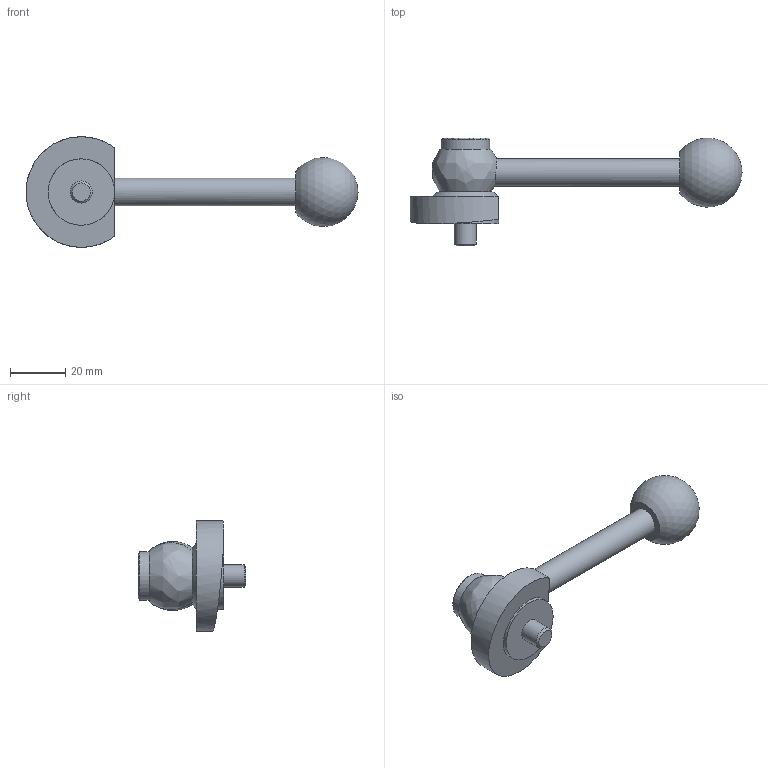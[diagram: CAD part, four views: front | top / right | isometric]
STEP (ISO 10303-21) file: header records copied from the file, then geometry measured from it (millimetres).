
FILE_DESCRIPTION( ( 'STEP AP203' ), '1' );
FILE_NAME( 'C:/Temp/Ganter_Step_05_03_2020/data/2_3/gn_918_2/Clamping bolt GN 918.2-40-GV-R.stp', '2020-03-05T13:12:07', ( 'License CC BY-ND 4.0' ), ( 'CADENAS' ), ' ', 'PARTsolutions', ' ' );
FILE_SCHEMA( ( 'CONFIG_CONTROL_DESIGN' ) );
Length unit declared in the file: millimetre
Products named in the file (1): _Clamping bolt GN 918.2-40-GV-R
Bounding box: 120 x 39 x 39.98 mm (x, y, z)
Volume: 30560.3 mm3; surface area: 8897.3 mm2
Topology: 1 solids, 1 shells, 33 faces, 77 edges, 48 vertices
Faces by surface type: plane 21, cylinder 6, cone 4, bspline 1, sphere 1
Full cylindrical faces by diameter (mm): 5 x1, 8 x1, 10 x1, 17.5 x1, 24 x1
Entity records: 925 total; most frequent: CARTESIAN_POINT 228, DIRECTION 142, ORIENTED_EDGE 108, AXIS2_PLACEMENT_3D 56, EDGE_CURVE 54, EDGE_LOOP 48, VERTEX_POINT 40, FACE_OUTER_BOUND 39
